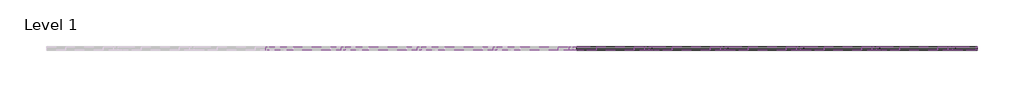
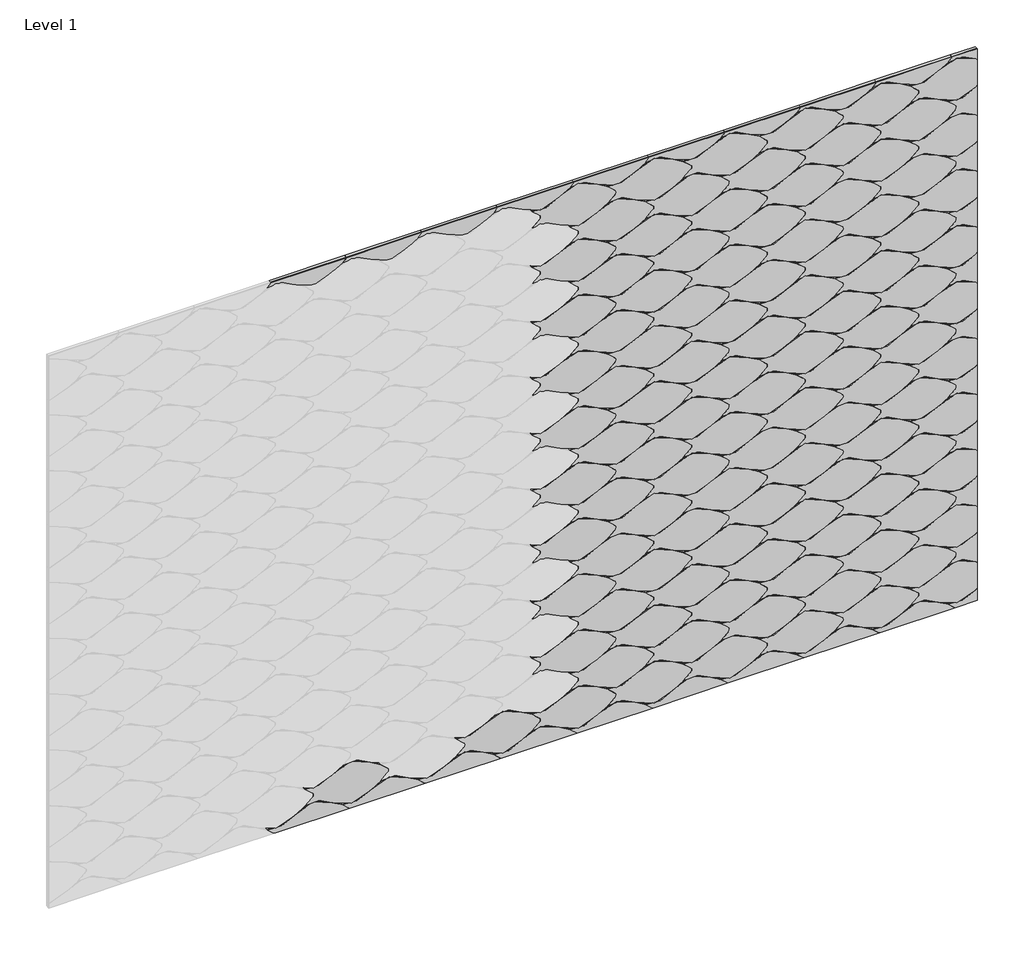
# One storey, part 2 of 2: 136 proxies.
"""IFC4 building model written with IfcOpenShell, lengths in millimetres."""

from ifc_helpers import new_model, si_unit, origin, place, context, project, spatial, transform, mapped, element, save
from components import specialty_equipment_90dfa3fd, specialty_equipment_1d68d449, specialty_equipment_d7a9fa1d, specialty_equipment_58f33b70, specialty_equipment_bcb07fab, specialty_equipment_c99af68f, specialty_equipment_28d2c19e, specialty_equipment_29c11f93, specialty_equipment_dfb9e28b, specialty_equipment_e3a5d67b, specialty_equipment_c6b61611, specialty_equipment_9b4069bb

model = new_model("IFC4")

# Units and contexts
model_context = context("Model", 3, world=origin())
ifc_project = project(units=[si_unit("LENGTHUNIT", "METRE", prefix="MILLI")], contexts=[model_context])

# Site, building, storey
site = spatial("IfcSite", under=ifc_project)
building = spatial("IfcBuilding", under=site)
storey = spatial("IfcBuildingStorey", under=building, Name="Level 1", Elevation=0.0)

# Proxies
placement = place(None, origin())
specialty_equipment_shape = specialty_equipment_90dfa3fd(model_context)
element("IfcBuildingElementProxy", 1, Name="FilzFelt_Fish_Block : Fish Block", ObjectType="FilzFelt_Fish_Block : Fish Block", at=placement, inside=storey, context=model_context, shape_type="MappedRepresentation", body=[
    mapped(specialty_equipment_shape, transform((22595.1029104, 4010.4660665, 3013.3456503), x_axis=(0.0, 0.0, -1.0), y_axis=(1.0, 0.0, 0.0), z_axis=(0.0, -1.0, 0.0))),
])
element("IfcBuildingElementProxy", 2, Name="FilzFelt_Fish_Block : Fish Block", ObjectType="FilzFelt_Fish_Block : Fish Block", at=placement, inside=storey, context=model_context, shape_type="MappedRepresentation", body=[
    mapped(specialty_equipment_shape, transform((22320.6548572, 4010.4660665, 3013.3456503), x_axis=(0.0, 0.0, -1.0), y_axis=(1.0, 0.0, 0.0), z_axis=(0.0, -1.0, 0.0))),
])
element("IfcBuildingElementProxy", 3, Name="FilzFelt_Fish_Block : Fish Block", ObjectType="FilzFelt_Fish_Block : Fish Block", at=placement, inside=storey, context=model_context, shape_type="MappedRepresentation", body=[
    mapped(specialty_equipment_shape, transform((22457.8788838, 4010.4660665, 2906.2483588), x_axis=(0.0, 0.0, -1.0), y_axis=(1.0, 0.0, 0.0), z_axis=(0.0, -1.0, 0.0))),
])
element("IfcBuildingElementProxy", 4, Name="FilzFelt_Fish_Block : Fish Block", ObjectType="FilzFelt_Fish_Block : Fish Block", at=placement, inside=storey, context=model_context, shape_type="MappedRepresentation", body=[
    mapped(specialty_equipment_shape, transform((22869.5509635, 4010.4660665, 1513.9835704), x_axis=(0.0, 0.0, -1.0), y_axis=(1.0, 0.0, 0.0), z_axis=(0.0, -1.0, 0.0))),
])
element("IfcBuildingElementProxy", 5, Name="FilzFelt_Fish_Block : Fish Block", ObjectType="FilzFelt_Fish_Block : Fish Block", at=placement, inside=storey, context=model_context, shape_type="MappedRepresentation", body=[
    mapped(specialty_equipment_shape, transform((22869.5509635, 4010.4660665, 1728.1781532), x_axis=(0.0, 0.0, -1.0), y_axis=(1.0, 0.0, 0.0), z_axis=(0.0, -1.0, 0.0))),
])
element("IfcBuildingElementProxy", 6, Name="FilzFelt_Fish_Block : Fish Block", ObjectType="FilzFelt_Fish_Block : Fish Block", at=placement, inside=storey, context=model_context, shape_type="MappedRepresentation", body=[
    mapped(specialty_equipment_shape, transform((23006.7749901, 4010.4660665, 1621.0808618), x_axis=(0.0, 0.0, -1.0), y_axis=(1.0, 0.0, 0.0), z_axis=(0.0, -1.0, 0.0))),
])
element("IfcBuildingElementProxy", 7, Name="FilzFelt_Fish_Block : Fish Block", ObjectType="FilzFelt_Fish_Block : Fish Block", at=placement, inside=storey, context=model_context, shape_type="MappedRepresentation", body=[
    mapped(specialty_equipment_shape, transform((22732.3269369, 4010.4660665, 1621.0808618), x_axis=(0.0, 0.0, -1.0), y_axis=(1.0, 0.0, 0.0), z_axis=(0.0, -1.0, 0.0))),
])
element("IfcBuildingElementProxy", 8, Name="FilzFelt_Fish_Block : Fish Block", ObjectType="FilzFelt_Fish_Block : Fish Block", at=placement, inside=storey, context=model_context, shape_type="MappedRepresentation", body=[
    mapped(specialty_equipment_shape, transform((22732.3269369, 4010.4660665, 2049.4700275), x_axis=(0.0, 0.0, -1.0), y_axis=(1.0, 0.0, 0.0), z_axis=(0.0, -1.0, 0.0))),
])
element("IfcBuildingElementProxy", 9, Name="FilzFelt_Fish_Block : Fish Block", ObjectType="FilzFelt_Fish_Block : Fish Block", at=placement, inside=storey, context=model_context, shape_type="MappedRepresentation", body=[
    mapped(specialty_equipment_shape, transform((22183.4308306, 4010.4660665, 2049.4700275), x_axis=(0.0, 0.0, -1.0), y_axis=(1.0, 0.0, 0.0), z_axis=(0.0, -1.0, 0.0))),
])
element("IfcBuildingElementProxy", 10, Name="FilzFelt_Fish_Block : Fish Block", ObjectType="FilzFelt_Fish_Block : Fish Block", at=placement, inside=storey, context=model_context, shape_type="MappedRepresentation", body=[
    mapped(specialty_equipment_shape, transform((23281.2230433, 4010.4660665, 2477.8591932), x_axis=(0.0, 0.0, -1.0), y_axis=(1.0, 0.0, 0.0), z_axis=(0.0, -1.0, 0.0))),
])
element("IfcBuildingElementProxy", 11, Name="FilzFelt_Fish_Block : Fish Block", ObjectType="FilzFelt_Fish_Block : Fish Block", at=placement, inside=storey, context=model_context, shape_type="MappedRepresentation", body=[
    mapped(specialty_equipment_shape, transform((23281.2230433, 4010.4660665, 2049.4700275), x_axis=(0.0, 0.0, -1.0), y_axis=(1.0, 0.0, 0.0), z_axis=(0.0, -1.0, 0.0))),
])
specialty_equipment_2_shape = specialty_equipment_1d68d449(model_context)
element("IfcBuildingElementProxy", 12, Name="FilzFelt_Fish_Block : Fish Block", ObjectType="FilzFelt_Fish_Block : Fish Block", at=placement, inside=storey, context=model_context, shape_type="MappedRepresentation", body=[
    mapped(specialty_equipment_2_shape, transform((22595.1029104, 4010.4660665, 2799.1510674), x_axis=(0.0, 0.0, 1.0), y_axis=(-1.0, 0.0, 0.0), z_axis=(0.0, -1.0, 0.0))),
])
element("IfcBuildingElementProxy", 13, Name="FilzFelt_Fish_Block : Fish Block", ObjectType="FilzFelt_Fish_Block : Fish Block", at=placement, inside=storey, context=model_context, shape_type="MappedRepresentation", body=[
    mapped(specialty_equipment_2_shape, transform((22320.6548572, 4010.4660665, 2799.1510674), x_axis=(0.0, 0.0, 1.0), y_axis=(-1.0, 0.0, 0.0), z_axis=(0.0, -1.0, 0.0))),
])
element("IfcBuildingElementProxy", 14, Name="FilzFelt_Fish_Block : Fish Block", ObjectType="FilzFelt_Fish_Block : Fish Block", at=placement, inside=storey, context=model_context, shape_type="MappedRepresentation", body=[
    mapped(specialty_equipment_2_shape, transform((22595.1029104, 4010.4660665, 2584.9564846), x_axis=(0.0, 0.0, 1.0), y_axis=(-1.0, 0.0, 0.0), z_axis=(0.0, -1.0, 0.0))),
])
element("IfcBuildingElementProxy", 15, Name="FilzFelt_Fish_Block : Fish Block", ObjectType="FilzFelt_Fish_Block : Fish Block", at=placement, inside=storey, context=model_context, shape_type="MappedRepresentation", body=[
    mapped(specialty_equipment_2_shape, transform((23006.7749901, 4010.4660665, 2692.053776), x_axis=(0.0, 0.0, 1.0), y_axis=(-1.0, 0.0, 0.0), z_axis=(0.0, -1.0, 0.0))),
])
element("IfcBuildingElementProxy", 16, Name="FilzFelt_Fish_Block : Fish Block", ObjectType="FilzFelt_Fish_Block : Fish Block", at=placement, inside=storey, context=model_context, shape_type="MappedRepresentation", body=[
    mapped(specialty_equipment_2_shape, transform((22457.8788838, 4010.4660665, 2692.053776), x_axis=(0.0, 0.0, 1.0), y_axis=(-1.0, 0.0, 0.0), z_axis=(0.0, -1.0, 0.0))),
])
element("IfcBuildingElementProxy", 17, Name="FilzFelt_Fish_Block : Fish Block", ObjectType="FilzFelt_Fish_Block : Fish Block", at=placement, inside=storey, context=model_context, shape_type="MappedRepresentation", body=[
    mapped(specialty_equipment_2_shape, transform((22320.6548572, 4010.4660665, 2156.5673189), x_axis=(0.0, 0.0, 1.0), y_axis=(-1.0, 0.0, 0.0), z_axis=(0.0, -1.0, 0.0))),
])
element("IfcBuildingElementProxy", 18, Name="FilzFelt_Fish_Block : Fish Block", ObjectType="FilzFelt_Fish_Block : Fish Block", at=placement, inside=storey, context=model_context, shape_type="MappedRepresentation", body=[
    mapped(specialty_equipment_2_shape, transform((22869.5509635, 4010.4660665, 1942.3727361), x_axis=(0.0, 0.0, 1.0), y_axis=(-1.0, 0.0, 0.0), z_axis=(0.0, -1.0, 0.0))),
])
element("IfcBuildingElementProxy", 19, Name="FilzFelt_Fish_Block : Fish Block", ObjectType="FilzFelt_Fish_Block : Fish Block", at=placement, inside=storey, context=model_context, shape_type="MappedRepresentation", body=[
    mapped(specialty_equipment_2_shape, transform((22732.3269369, 4010.4660665, 1835.2754446), x_axis=(0.0, 0.0, 1.0), y_axis=(-1.0, 0.0, 0.0), z_axis=(0.0, -1.0, 0.0))),
])
specialty_equipment_3_shape = specialty_equipment_d7a9fa1d(model_context)
element("IfcBuildingElementProxy", 20, Name="FilzFelt_Fish_Block : Fish Block", ObjectType="FilzFelt_Fish_Block : Fish Block", at=placement, inside=storey, context=model_context, shape_type="MappedRepresentation", body=[
    mapped(specialty_equipment_3_shape, transform((22045.566657, 4010.4660665, 1942.3727361), x_axis=(0.0, 0.0, 1.0), y_axis=(-1.0, 0.0, 0.0), z_axis=(0.0, -1.0, 0.0))),
])
element("IfcBuildingElementProxy", 21, Name="FilzFelt_Fish_Block : Fish Block", ObjectType="FilzFelt_Fish_Block : Fish Block", at=placement, inside=storey, context=model_context, shape_type="MappedRepresentation", body=[
    mapped(specialty_equipment_3_shape, transform((23143.9990167, 4010.4660665, 2584.9564846), x_axis=(0.0, 0.0, 1.0), y_axis=(-1.0, 0.0, 0.0), z_axis=(0.0, -1.0, 0.0))),
])
specialty_equipment_4_shape = specialty_equipment_58f33b70(model_context)
element("IfcBuildingElementProxy", 22, Name="FilzFelt_Fish_Block : Fish Block", ObjectType="FilzFelt_Fish_Block : Fish Block", at=placement, inside=storey, context=model_context, shape_type="MappedRepresentation", body=[
    mapped(specialty_equipment_4_shape, transform((22045.566657, 4010.4660665, 2370.7619017), x_axis=(0.0, 0.0, -1.0), y_axis=(1.0, 0.0, 0.0), z_axis=(0.0, -1.0, 0.0))),
])
specialty_equipment_5_shape = specialty_equipment_bcb07fab(model_context)
element("IfcBuildingElementProxy", 23, Name="FilzFelt_Fish_Block : Fish Block", ObjectType="FilzFelt_Fish_Block : Fish Block", at=placement, inside=storey, context=model_context, shape_type="MappedRepresentation", body=[
    mapped(specialty_equipment_5_shape, transform((21633.8945773, 4010.4660665, 3120.4429417), x_axis=(0.0, 0.0, -1.0), y_axis=(1.0, 0.0, 0.0), z_axis=(0.0, -1.0, 0.0))),
])
element("IfcBuildingElementProxy", 24, Name="FilzFelt_Fish_Block : Fish Block", ObjectType="FilzFelt_Fish_Block : Fish Block", at=placement, inside=storey, context=model_context, shape_type="MappedRepresentation", body=[
    mapped(specialty_equipment_5_shape, transform((21359.4465242, 4010.4660665, 3120.4429417), x_axis=(0.0, 0.0, -1.0), y_axis=(1.0, 0.0, 0.0), z_axis=(0.0, -1.0, 0.0))),
])
element("IfcBuildingElementProxy", 25, Name="FilzFelt_Fish_Block : Fish Block", ObjectType="FilzFelt_Fish_Block : Fish Block", at=placement, inside=storey, context=model_context, shape_type="MappedRepresentation", body=[
    mapped(specialty_equipment_5_shape, transform((22457.8788838, 4010.4660665, 3120.4429417), x_axis=(0.0, 0.0, -1.0), y_axis=(1.0, 0.0, 0.0), z_axis=(0.0, -1.0, 0.0))),
])
specialty_equipment_6_shape = specialty_equipment_c99af68f(model_context)
element("IfcBuildingElementProxy", 26, Name="FilzFelt_Fish_Block : Fish Block", ObjectType="FilzFelt_Fish_Block : Fish Block", at=placement, inside=storey, context=model_context, shape_type="MappedRepresentation", body=[
    mapped(specialty_equipment_6_shape, transform((23418.4470698, 4010.4660665, 2584.9564846), x_axis=(0.0, 0.0, 1.0), y_axis=(-1.0, 0.0, 0.0), z_axis=(0.0, -1.0, 0.0))),
])
element("IfcBuildingElementProxy", 27, Name="FilzFelt_Fish_Block : Fish Block", ObjectType="FilzFelt_Fish_Block : Fish Block", at=placement, inside=storey, context=model_context, shape_type="MappedRepresentation", body=[
    mapped(specialty_equipment_6_shape, transform((23418.4470698, 4010.4660665, 1942.3727361), x_axis=(0.0, 0.0, 1.0), y_axis=(-1.0, 0.0, 0.0), z_axis=(0.0, -1.0, 0.0))),
])
specialty_equipment_7_shape = specialty_equipment_28d2c19e(model_context)
element("IfcBuildingElementProxy", 28, Name="FilzFelt_Fish_Block : Fish Block", ObjectType="FilzFelt_Fish_Block : Fish Block", at=placement, inside=storey, context=model_context, shape_type="MappedRepresentation", body=[
    mapped(specialty_equipment_7_shape, transform((23555.6710964, 4010.4660665, 2049.4700275), x_axis=(0.0, 0.0, -1.0), y_axis=(1.0, 0.0, 0.0), z_axis=(0.0, -1.0, 0.0))),
])
specialty_equipment_8_shape = specialty_equipment_29c11f93(model_context)
element("IfcBuildingElementProxy", 29, Name="FilzFelt_Fish_Block : Fish Block", ObjectType="FilzFelt_Fish_Block : Fish Block", at=placement, inside=storey, context=model_context, shape_type="MappedRepresentation", body=[
    mapped(specialty_equipment_8_shape, transform((23555.6710964, 4010.4660665, 978.4971133), x_axis=(0.0, 0.0, 1.0), y_axis=(-1.0, 0.0, 0.0), z_axis=(0.0, -1.0, 0.0))),
])
specialty_equipment_9_shape = specialty_equipment_dfb9e28b(model_context)
element("IfcBuildingElementProxy", 30, Name="FilzFelt_Fish_Block : Fish Block", ObjectType="FilzFelt_Fish_Block : Fish Block", at=placement, inside=storey, context=model_context, shape_type="MappedRepresentation", body=[
    mapped(specialty_equipment_9_shape, transform((23555.6710964, 4010.4660665, 1406.886279), x_axis=(0.0, 0.0, 1.0), y_axis=(-1.0, 0.0, 0.0), z_axis=(0.0, -1.0, 0.0))),
])
element("IfcBuildingElementProxy", 31, Name="FilzFelt_Fish_Block : Fish Block", ObjectType="FilzFelt_Fish_Block : Fish Block", at=placement, inside=storey, context=model_context, shape_type="MappedRepresentation", body=[
    mapped(specialty_equipment_shape, transform((22869.5509635, 4010.4660665, 3013.3456503), x_axis=(0.0, 0.0, -1.0), y_axis=(1.0, 0.0, 0.0), z_axis=(0.0, -1.0, 0.0))),
])
element("IfcBuildingElementProxy", 32, Name="FilzFelt_Fish_Block : Fish Block", ObjectType="FilzFelt_Fish_Block : Fish Block", at=placement, inside=storey, context=model_context, shape_type="MappedRepresentation", body=[
    mapped(specialty_equipment_shape, transform((23006.7749901, 4010.4660665, 2906.2483588), x_axis=(0.0, 0.0, -1.0), y_axis=(1.0, 0.0, 0.0), z_axis=(0.0, -1.0, 0.0))),
])
element("IfcBuildingElementProxy", 33, Name="FilzFelt_Fish_Block : Fish Block", ObjectType="FilzFelt_Fish_Block : Fish Block", at=placement, inside=storey, context=model_context, shape_type="MappedRepresentation", body=[
    mapped(specialty_equipment_shape, transform((22732.3269369, 4010.4660665, 2906.2483588), x_axis=(0.0, 0.0, -1.0), y_axis=(1.0, 0.0, 0.0), z_axis=(0.0, -1.0, 0.0))),
])
element("IfcBuildingElementProxy", 34, Name="FilzFelt_Fish_Block : Fish Block", ObjectType="FilzFelt_Fish_Block : Fish Block", at=placement, inside=storey, context=model_context, shape_type="MappedRepresentation", body=[
    mapped(specialty_equipment_shape, transform((22869.5509635, 4010.4660665, 2370.7619017), x_axis=(0.0, 0.0, -1.0), y_axis=(1.0, 0.0, 0.0), z_axis=(0.0, -1.0, 0.0))),
])
element("IfcBuildingElementProxy", 35, Name="FilzFelt_Fish_Block : Fish Block", ObjectType="FilzFelt_Fish_Block : Fish Block", at=placement, inside=storey, context=model_context, shape_type="MappedRepresentation", body=[
    mapped(specialty_equipment_shape, transform((23006.7749901, 4010.4660665, 2477.8591932), x_axis=(0.0, 0.0, -1.0), y_axis=(1.0, 0.0, 0.0), z_axis=(0.0, -1.0, 0.0))),
])
element("IfcBuildingElementProxy", 36, Name="FilzFelt_Fish_Block : Fish Block", ObjectType="FilzFelt_Fish_Block : Fish Block", at=placement, inside=storey, context=model_context, shape_type="MappedRepresentation", body=[
    mapped(specialty_equipment_shape, transform((22595.1029104, 4010.4660665, 1513.9835704), x_axis=(0.0, 0.0, -1.0), y_axis=(1.0, 0.0, 0.0), z_axis=(0.0, -1.0, 0.0))),
])
element("IfcBuildingElementProxy", 37, Name="FilzFelt_Fish_Block : Fish Block", ObjectType="FilzFelt_Fish_Block : Fish Block", at=placement, inside=storey, context=model_context, shape_type="MappedRepresentation", body=[
    mapped(specialty_equipment_shape, transform((22320.6548572, 4010.4660665, 1513.9835704), x_axis=(0.0, 0.0, -1.0), y_axis=(1.0, 0.0, 0.0), z_axis=(0.0, -1.0, 0.0))),
])
element("IfcBuildingElementProxy", 38, Name="FilzFelt_Fish_Block : Fish Block", ObjectType="FilzFelt_Fish_Block : Fish Block", at=placement, inside=storey, context=model_context, shape_type="MappedRepresentation", body=[
    mapped(specialty_equipment_shape, transform((22595.1029104, 4010.4660665, 1728.1781532), x_axis=(0.0, 0.0, -1.0), y_axis=(1.0, 0.0, 0.0), z_axis=(0.0, -1.0, 0.0))),
])
element("IfcBuildingElementProxy", 39, Name="FilzFelt_Fish_Block : Fish Block", ObjectType="FilzFelt_Fish_Block : Fish Block", at=placement, inside=storey, context=model_context, shape_type="MappedRepresentation", body=[
    mapped(specialty_equipment_shape, transform((22320.6548572, 4010.4660665, 1728.1781532), x_axis=(0.0, 0.0, -1.0), y_axis=(1.0, 0.0, 0.0), z_axis=(0.0, -1.0, 0.0))),
])
element("IfcBuildingElementProxy", 40, Name="FilzFelt_Fish_Block : Fish Block", ObjectType="FilzFelt_Fish_Block : Fish Block", at=placement, inside=storey, context=model_context, shape_type="MappedRepresentation", body=[
    mapped(specialty_equipment_shape, transform((22457.8788838, 4010.4660665, 1621.0808618), x_axis=(0.0, 0.0, -1.0), y_axis=(1.0, 0.0, 0.0), z_axis=(0.0, -1.0, 0.0))),
])
element("IfcBuildingElementProxy", 41, Name="FilzFelt_Fish_Block : Fish Block", ObjectType="FilzFelt_Fish_Block : Fish Block", at=placement, inside=storey, context=model_context, shape_type="MappedRepresentation", body=[
    mapped(specialty_equipment_shape, transform((23006.7749901, 4010.4660665, 1192.6916961), x_axis=(0.0, 0.0, -1.0), y_axis=(1.0, 0.0, 0.0), z_axis=(0.0, -1.0, 0.0))),
])
element("IfcBuildingElementProxy", 42, Name="FilzFelt_Fish_Block : Fish Block", ObjectType="FilzFelt_Fish_Block : Fish Block", at=placement, inside=storey, context=model_context, shape_type="MappedRepresentation", body=[
    mapped(specialty_equipment_shape, transform((22183.4308306, 4010.4660665, 1192.6916961), x_axis=(0.0, 0.0, -1.0), y_axis=(1.0, 0.0, 0.0), z_axis=(0.0, -1.0, 0.0))),
])
element("IfcBuildingElementProxy", 43, Name="FilzFelt_Fish_Block : Fish Block", ObjectType="FilzFelt_Fish_Block : Fish Block", at=placement, inside=storey, context=model_context, shape_type="MappedRepresentation", body=[
    mapped(specialty_equipment_shape, transform((23281.2230433, 4010.4660665, 1192.6916961), x_axis=(0.0, 0.0, -1.0), y_axis=(1.0, 0.0, 0.0), z_axis=(0.0, -1.0, 0.0))),
])
element("IfcBuildingElementProxy", 44, Name="FilzFelt_Fish_Block : Fish Block", ObjectType="FilzFelt_Fish_Block : Fish Block", at=placement, inside=storey, context=model_context, shape_type="MappedRepresentation", body=[
    mapped(specialty_equipment_5_shape, transform((23006.7749901, 4010.4660665, 3120.4429417), x_axis=(0.0, 0.0, -1.0), y_axis=(1.0, 0.0, 0.0), z_axis=(0.0, -1.0, 0.0))),
])
element("IfcBuildingElementProxy", 45, Name="FilzFelt_Fish_Block : Fish Block", ObjectType="FilzFelt_Fish_Block : Fish Block", at=placement, inside=storey, context=model_context, shape_type="MappedRepresentation", body=[
    mapped(specialty_equipment_5_shape, transform((22732.3269369, 4010.4660665, 3120.4429417), x_axis=(0.0, 0.0, -1.0), y_axis=(1.0, 0.0, 0.0), z_axis=(0.0, -1.0, 0.0))),
])
element("IfcBuildingElementProxy", 46, Name="FilzFelt_Fish_Block : Fish Block", ObjectType="FilzFelt_Fish_Block : Fish Block", at=placement, inside=storey, context=model_context, shape_type="MappedRepresentation", body=[
    mapped(specialty_equipment_5_shape, transform((23281.2230433, 4010.4660665, 3120.4429417), x_axis=(0.0, 0.0, -1.0), y_axis=(1.0, 0.0, 0.0), z_axis=(0.0, -1.0, 0.0))),
])
element("IfcBuildingElementProxy", 47, Name="FilzFelt_Fish_Block : Fish Block", ObjectType="FilzFelt_Fish_Block : Fish Block", at=placement, inside=storey, context=model_context, shape_type="MappedRepresentation", body=[
    mapped(specialty_equipment_shape, transform((22183.4308306, 4010.4660665, 2906.2483588), x_axis=(0.0, 0.0, -1.0), y_axis=(1.0, 0.0, 0.0), z_axis=(0.0, -1.0, 0.0))),
])
element("IfcBuildingElementProxy", 48, Name="FilzFelt_Fish_Block : Fish Block", ObjectType="FilzFelt_Fish_Block : Fish Block", at=placement, inside=storey, context=model_context, shape_type="MappedRepresentation", body=[
    mapped(specialty_equipment_shape, transform((22732.3269369, 4010.4660665, 2477.8591932), x_axis=(0.0, 0.0, -1.0), y_axis=(1.0, 0.0, 0.0), z_axis=(0.0, -1.0, 0.0))),
])
element("IfcBuildingElementProxy", 49, Name="FilzFelt_Fish_Block : Fish Block", ObjectType="FilzFelt_Fish_Block : Fish Block", at=placement, inside=storey, context=model_context, shape_type="MappedRepresentation", body=[
    mapped(specialty_equipment_shape, transform((22183.4308306, 4010.4660665, 2477.8591932), x_axis=(0.0, 0.0, -1.0), y_axis=(1.0, 0.0, 0.0), z_axis=(0.0, -1.0, 0.0))),
])
element("IfcBuildingElementProxy", 50, Name="FilzFelt_Fish_Block : Fish Block", ObjectType="FilzFelt_Fish_Block : Fish Block", at=placement, inside=storey, context=model_context, shape_type="MappedRepresentation", body=[
    mapped(specialty_equipment_shape, transform((22457.8788838, 4010.4660665, 2049.4700275), x_axis=(0.0, 0.0, -1.0), y_axis=(1.0, 0.0, 0.0), z_axis=(0.0, -1.0, 0.0))),
])
element("IfcBuildingElementProxy", 51, Name="FilzFelt_Fish_Block : Fish Block", ObjectType="FilzFelt_Fish_Block : Fish Block", at=placement, inside=storey, context=model_context, shape_type="MappedRepresentation", body=[
    mapped(specialty_equipment_shape, transform((23281.2230433, 4010.4660665, 1621.0808618), x_axis=(0.0, 0.0, -1.0), y_axis=(1.0, 0.0, 0.0), z_axis=(0.0, -1.0, 0.0))),
])
element("IfcBuildingElementProxy", 52, Name="FilzFelt_Fish_Block : Fish Block", ObjectType="FilzFelt_Fish_Block : Fish Block", at=placement, inside=storey, context=model_context, shape_type="MappedRepresentation", body=[
    mapped(specialty_equipment_4_shape, transform((22045.566657, 4010.4660665, 3013.3456503), x_axis=(0.0, 0.0, -1.0), y_axis=(1.0, 0.0, 0.0), z_axis=(0.0, -1.0, 0.0))),
])
element("IfcBuildingElementProxy", 53, Name="FilzFelt_Fish_Block : Fish Block", ObjectType="FilzFelt_Fish_Block : Fish Block", at=placement, inside=storey, context=model_context, shape_type="MappedRepresentation", body=[
    mapped(specialty_equipment_4_shape, transform((23143.9990167, 4010.4660665, 1513.9835704), x_axis=(0.0, 0.0, -1.0), y_axis=(1.0, 0.0, 0.0), z_axis=(0.0, -1.0, 0.0))),
])
element("IfcBuildingElementProxy", 54, Name="FilzFelt_Fish_Block : Fish Block", ObjectType="FilzFelt_Fish_Block : Fish Block", at=placement, inside=storey, context=model_context, shape_type="MappedRepresentation", body=[
    mapped(specialty_equipment_2_shape, transform((21222.2224976, 4010.4660665, 1085.5944047), x_axis=(0.0, 0.0, 1.0), y_axis=(-1.0, 0.0, 0.0), z_axis=(0.0, -1.0, 0.0))),
])
element("IfcBuildingElementProxy", 55, Name="FilzFelt_Fish_Block : Fish Block", ObjectType="FilzFelt_Fish_Block : Fish Block", at=placement, inside=storey, context=model_context, shape_type="MappedRepresentation", body=[
    mapped(specialty_equipment_2_shape, transform((21771.1186039, 4010.4660665, 1085.5944047), x_axis=(0.0, 0.0, 1.0), y_axis=(-1.0, 0.0, 0.0), z_axis=(0.0, -1.0, 0.0))),
])
element("IfcBuildingElementProxy", 56, Name="FilzFelt_Fish_Block : Fish Block", ObjectType="FilzFelt_Fish_Block : Fish Block", at=placement, inside=storey, context=model_context, shape_type="MappedRepresentation", body=[
    mapped(specialty_equipment_2_shape, transform((22869.5509635, 4010.4660665, 2799.1510674), x_axis=(0.0, 0.0, 1.0), y_axis=(-1.0, 0.0, 0.0), z_axis=(0.0, -1.0, 0.0))),
])
element("IfcBuildingElementProxy", 57, Name="FilzFelt_Fish_Block : Fish Block", ObjectType="FilzFelt_Fish_Block : Fish Block", at=placement, inside=storey, context=model_context, shape_type="MappedRepresentation", body=[
    mapped(specialty_equipment_2_shape, transform((22320.6548572, 4010.4660665, 2584.9564846), x_axis=(0.0, 0.0, 1.0), y_axis=(-1.0, 0.0, 0.0), z_axis=(0.0, -1.0, 0.0))),
])
element("IfcBuildingElementProxy", 58, Name="FilzFelt_Fish_Block : Fish Block", ObjectType="FilzFelt_Fish_Block : Fish Block", at=placement, inside=storey, context=model_context, shape_type="MappedRepresentation", body=[
    mapped(specialty_equipment_2_shape, transform((22869.5509635, 4010.4660665, 2584.9564846), x_axis=(0.0, 0.0, 1.0), y_axis=(-1.0, 0.0, 0.0), z_axis=(0.0, -1.0, 0.0))),
])
element("IfcBuildingElementProxy", 59, Name="FilzFelt_Fish_Block : Fish Block", ObjectType="FilzFelt_Fish_Block : Fish Block", at=placement, inside=storey, context=model_context, shape_type="MappedRepresentation", body=[
    mapped(specialty_equipment_2_shape, transform((22732.3269369, 4010.4660665, 2692.053776), x_axis=(0.0, 0.0, 1.0), y_axis=(-1.0, 0.0, 0.0), z_axis=(0.0, -1.0, 0.0))),
])
element("IfcBuildingElementProxy", 60, Name="FilzFelt_Fish_Block : Fish Block", ObjectType="FilzFelt_Fish_Block : Fish Block", at=placement, inside=storey, context=model_context, shape_type="MappedRepresentation", body=[
    mapped(specialty_equipment_2_shape, transform((22183.4308306, 4010.4660665, 2692.053776), x_axis=(0.0, 0.0, 1.0), y_axis=(-1.0, 0.0, 0.0), z_axis=(0.0, -1.0, 0.0))),
])
element("IfcBuildingElementProxy", 61, Name="FilzFelt_Fish_Block : Fish Block", ObjectType="FilzFelt_Fish_Block : Fish Block", at=placement, inside=storey, context=model_context, shape_type="MappedRepresentation", body=[
    mapped(specialty_equipment_2_shape, transform((22595.1029104, 4010.4660665, 2156.5673189), x_axis=(0.0, 0.0, 1.0), y_axis=(-1.0, 0.0, 0.0), z_axis=(0.0, -1.0, 0.0))),
])
element("IfcBuildingElementProxy", 62, Name="FilzFelt_Fish_Block : Fish Block", ObjectType="FilzFelt_Fish_Block : Fish Block", at=placement, inside=storey, context=model_context, shape_type="MappedRepresentation", body=[
    mapped(specialty_equipment_2_shape, transform((22732.3269369, 4010.4660665, 2263.6646103), x_axis=(0.0, 0.0, 1.0), y_axis=(-1.0, 0.0, 0.0), z_axis=(0.0, -1.0, 0.0))),
])
element("IfcBuildingElementProxy", 63, Name="FilzFelt_Fish_Block : Fish Block", ObjectType="FilzFelt_Fish_Block : Fish Block", at=placement, inside=storey, context=model_context, shape_type="MappedRepresentation", body=[
    mapped(specialty_equipment_2_shape, transform((22595.1029104, 4010.4660665, 1299.7889875), x_axis=(0.0, 0.0, 1.0), y_axis=(-1.0, 0.0, 0.0), z_axis=(0.0, -1.0, 0.0))),
])
element("IfcBuildingElementProxy", 64, Name="FilzFelt_Fish_Block : Fish Block", ObjectType="FilzFelt_Fish_Block : Fish Block", at=placement, inside=storey, context=model_context, shape_type="MappedRepresentation", body=[
    mapped(specialty_equipment_2_shape, transform((22320.6548572, 4010.4660665, 1299.7889875), x_axis=(0.0, 0.0, 1.0), y_axis=(-1.0, 0.0, 0.0), z_axis=(0.0, -1.0, 0.0))),
])
element("IfcBuildingElementProxy", 65, Name="FilzFelt_Fish_Block : Fish Block", ObjectType="FilzFelt_Fish_Block : Fish Block", at=placement, inside=storey, context=model_context, shape_type="MappedRepresentation", body=[
    mapped(specialty_equipment_2_shape, transform((23006.7749901, 4010.4660665, 1406.886279), x_axis=(0.0, 0.0, 1.0), y_axis=(-1.0, 0.0, 0.0), z_axis=(0.0, -1.0, 0.0))),
])
element("IfcBuildingElementProxy", 66, Name="FilzFelt_Fish_Block : Fish Block", ObjectType="FilzFelt_Fish_Block : Fish Block", at=placement, inside=storey, context=model_context, shape_type="MappedRepresentation", body=[
    mapped(specialty_equipment_2_shape, transform((22457.8788838, 4010.4660665, 1406.886279), x_axis=(0.0, 0.0, 1.0), y_axis=(-1.0, 0.0, 0.0), z_axis=(0.0, -1.0, 0.0))),
])
element("IfcBuildingElementProxy", 67, Name="FilzFelt_Fish_Block : Fish Block", ObjectType="FilzFelt_Fish_Block : Fish Block", at=placement, inside=storey, context=model_context, shape_type="MappedRepresentation", body=[
    mapped(specialty_equipment_2_shape, transform((22183.4308306, 4010.4660665, 1406.886279), x_axis=(0.0, 0.0, 1.0), y_axis=(-1.0, 0.0, 0.0), z_axis=(0.0, -1.0, 0.0))),
])
element("IfcBuildingElementProxy", 68, Name="FilzFelt_Fish_Block : Fish Block", ObjectType="FilzFelt_Fish_Block : Fish Block", at=placement, inside=storey, context=model_context, shape_type="MappedRepresentation", body=[
    mapped(specialty_equipment_2_shape, transform((22320.6548572, 4010.4660665, 1942.3727361), x_axis=(0.0, 0.0, 1.0), y_axis=(-1.0, 0.0, 0.0), z_axis=(0.0, -1.0, 0.0))),
])
element("IfcBuildingElementProxy", 69, Name="FilzFelt_Fish_Block : Fish Block", ObjectType="FilzFelt_Fish_Block : Fish Block", at=placement, inside=storey, context=model_context, shape_type="MappedRepresentation", body=[
    mapped(specialty_equipment_2_shape, transform((23281.2230433, 4010.4660665, 2263.6646103), x_axis=(0.0, 0.0, 1.0), y_axis=(-1.0, 0.0, 0.0), z_axis=(0.0, -1.0, 0.0))),
])
element("IfcBuildingElementProxy", 70, Name="FilzFelt_Fish_Block : Fish Block", ObjectType="FilzFelt_Fish_Block : Fish Block", at=placement, inside=storey, context=model_context, shape_type="MappedRepresentation", body=[
    mapped(specialty_equipment_2_shape, transform((23281.2230433, 4010.4660665, 1406.886279), x_axis=(0.0, 0.0, 1.0), y_axis=(-1.0, 0.0, 0.0), z_axis=(0.0, -1.0, 0.0))),
])
element("IfcBuildingElementProxy", 71, Name="FilzFelt_Fish_Block : Fish Block", ObjectType="FilzFelt_Fish_Block : Fish Block", at=placement, inside=storey, context=model_context, shape_type="MappedRepresentation", body=[
    mapped(specialty_equipment_3_shape, transform((22045.566657, 4010.4660665, 2584.9564846), x_axis=(0.0, 0.0, 1.0), y_axis=(-1.0, 0.0, 0.0), z_axis=(0.0, -1.0, 0.0))),
])
specialty_equipment_10_shape = specialty_equipment_e3a5d67b(model_context)
element("IfcBuildingElementProxy", 72, Name="FilzFelt_Fish_Block : Fish Block", ObjectType="FilzFelt_Fish_Block : Fish Block", at=placement, inside=storey, context=model_context, shape_type="MappedRepresentation", body=[
    mapped(specialty_equipment_10_shape, transform((21633.8945773, 4010.4660665, 978.4971133), x_axis=(0.0, 0.0, 1.0), y_axis=(-1.0, 0.0, 0.0), z_axis=(0.0, -1.0, 0.0))),
])
element("IfcBuildingElementProxy", 73, Name="FilzFelt_Fish_Block : Fish Block", ObjectType="FilzFelt_Fish_Block : Fish Block", at=placement, inside=storey, context=model_context, shape_type="MappedRepresentation", body=[
    mapped(specialty_equipment_10_shape, transform((21359.4465242, 4010.4660665, 978.4971133), x_axis=(0.0, 0.0, 1.0), y_axis=(-1.0, 0.0, 0.0), z_axis=(0.0, -1.0, 0.0))),
])
element("IfcBuildingElementProxy", 74, Name="FilzFelt_Fish_Block : Fish Block", ObjectType="FilzFelt_Fish_Block : Fish Block", at=placement, inside=storey, context=model_context, shape_type="MappedRepresentation", body=[
    mapped(specialty_equipment_10_shape, transform((21084.998471, 4010.4660665, 978.4971133), x_axis=(0.0, 0.0, 1.0), y_axis=(-1.0, 0.0, 0.0), z_axis=(0.0, -1.0, 0.0))),
])
element("IfcBuildingElementProxy", 75, Name="FilzFelt_Fish_Block : Fish Block", ObjectType="FilzFelt_Fish_Block : Fish Block", at=placement, inside=storey, context=model_context, shape_type="MappedRepresentation", body=[
    mapped(specialty_equipment_5_shape, transform((21908.3426305, 4010.4660665, 3120.4429417), x_axis=(0.0, 0.0, -1.0), y_axis=(1.0, 0.0, 0.0), z_axis=(0.0, -1.0, 0.0))),
])
element("IfcBuildingElementProxy", 76, Name="FilzFelt_Fish_Block : Fish Block", ObjectType="FilzFelt_Fish_Block : Fish Block", at=placement, inside=storey, context=model_context, shape_type="MappedRepresentation", body=[
    mapped(specialty_equipment_5_shape, transform((21084.998471, 4010.4660665, 3120.4429417), x_axis=(0.0, 0.0, -1.0), y_axis=(1.0, 0.0, 0.0), z_axis=(0.0, -1.0, 0.0))),
])
element("IfcBuildingElementProxy", 77, Name="FilzFelt_Fish_Block : Fish Block", ObjectType="FilzFelt_Fish_Block : Fish Block", at=placement, inside=storey, context=model_context, shape_type="MappedRepresentation", body=[
    mapped(specialty_equipment_5_shape, transform((22183.4308306, 4010.4660665, 3120.4429417), x_axis=(0.0, 0.0, -1.0), y_axis=(1.0, 0.0, 0.0), z_axis=(0.0, -1.0, 0.0))),
])
element("IfcBuildingElementProxy", 78, Name="FilzFelt_Fish_Block : Fish Block", ObjectType="FilzFelt_Fish_Block : Fish Block", at=placement, inside=storey, context=model_context, shape_type="MappedRepresentation", body=[
    mapped(specialty_equipment_7_shape, transform((23555.6710964, 4010.4660665, 2906.2483588), x_axis=(0.0, 0.0, -1.0), y_axis=(1.0, 0.0, 0.0), z_axis=(0.0, -1.0, 0.0))),
])
element("IfcBuildingElementProxy", 79, Name="FilzFelt_Fish_Block : Fish Block", ObjectType="FilzFelt_Fish_Block : Fish Block", at=placement, inside=storey, context=model_context, shape_type="MappedRepresentation", body=[
    mapped(specialty_equipment_7_shape, transform((23555.6710964, 4010.4660665, 2477.8591932), x_axis=(0.0, 0.0, -1.0), y_axis=(1.0, 0.0, 0.0), z_axis=(0.0, -1.0, 0.0))),
])
element("IfcBuildingElementProxy", 80, Name="FilzFelt_Fish_Block : Fish Block", ObjectType="FilzFelt_Fish_Block : Fish Block", at=placement, inside=storey, context=model_context, shape_type="MappedRepresentation", body=[
    mapped(specialty_equipment_6_shape, transform((23418.4470698, 4010.4660665, 2156.5673189), x_axis=(0.0, 0.0, 1.0), y_axis=(-1.0, 0.0, 0.0), z_axis=(0.0, -1.0, 0.0))),
])
element("IfcBuildingElementProxy", 81, Name="FilzFelt_Fish_Block : Fish Block", ObjectType="FilzFelt_Fish_Block : Fish Block", at=placement, inside=storey, context=model_context, shape_type="MappedRepresentation", body=[
    mapped(specialty_equipment_9_shape, transform((23555.6710964, 4010.4660665, 2263.6646103), x_axis=(0.0, 0.0, 1.0), y_axis=(-1.0, 0.0, 0.0), z_axis=(0.0, -1.0, 0.0))),
])
specialty_equipment_11_shape = specialty_equipment_c6b61611(model_context)
element("IfcBuildingElementProxy", 82, Name="FilzFelt_Fish_Block : Fish Block", ObjectType="FilzFelt_Fish_Block : Fish Block", at=placement, inside=storey, context=model_context, shape_type="MappedRepresentation", body=[
    mapped(specialty_equipment_11_shape, transform((23418.4470698, 4010.4660665, 2370.7619017), x_axis=(0.0, 0.0, -1.0), y_axis=(1.0, 0.0, 0.0), z_axis=(0.0, -1.0, 0.0))),
])
element("IfcBuildingElementProxy", 83, Name="FilzFelt_Fish_Block : Fish Block", ObjectType="FilzFelt_Fish_Block : Fish Block", at=placement, inside=storey, context=model_context, shape_type="MappedRepresentation", body=[
    mapped(specialty_equipment_11_shape, transform((23418.4470698, 4010.4660665, 1513.9835704), x_axis=(0.0, 0.0, -1.0), y_axis=(1.0, 0.0, 0.0), z_axis=(0.0, -1.0, 0.0))),
])
specialty_equipment_12_shape = specialty_equipment_9b4069bb(model_context)
element("IfcBuildingElementProxy", 84, Name="FilzFelt_Fish_Block : Fish Block", ObjectType="FilzFelt_Fish_Block : Fish Block", at=placement, inside=storey, context=model_context, shape_type="MappedRepresentation", body=[
    mapped(specialty_equipment_12_shape, transform((23555.6710964, 4010.4660665, 3120.4429417), x_axis=(0.0, 0.0, -1.0), y_axis=(1.0, 0.0, 0.0), z_axis=(0.0, -1.0, 0.0))),
])
element("IfcBuildingElementProxy", 85, Name="FilzFelt_Fish_Block : Fish Block", ObjectType="FilzFelt_Fish_Block : Fish Block", at=placement, inside=storey, context=model_context, shape_type="MappedRepresentation", body=[
    mapped(specialty_equipment_2_shape, transform((22732.3269369, 4010.4660665, 1406.886279), x_axis=(0.0, 0.0, 1.0), y_axis=(-1.0, 0.0, 0.0), z_axis=(0.0, -1.0, 0.0))),
])
element("IfcBuildingElementProxy", 86, Name="FilzFelt_Fish_Block : Fish Block", ObjectType="FilzFelt_Fish_Block : Fish Block", at=placement, inside=storey, context=model_context, shape_type="MappedRepresentation", body=[
    mapped(specialty_equipment_2_shape, transform((22595.1029104, 4010.4660665, 1942.3727361), x_axis=(0.0, 0.0, 1.0), y_axis=(-1.0, 0.0, 0.0), z_axis=(0.0, -1.0, 0.0))),
])
element("IfcBuildingElementProxy", 87, Name="FilzFelt_Fish_Block : Fish Block", ObjectType="FilzFelt_Fish_Block : Fish Block", at=placement, inside=storey, context=model_context, shape_type="MappedRepresentation", body=[
    mapped(specialty_equipment_2_shape, transform((22457.8788838, 4010.4660665, 1835.2754446), x_axis=(0.0, 0.0, 1.0), y_axis=(-1.0, 0.0, 0.0), z_axis=(0.0, -1.0, 0.0))),
])
element("IfcBuildingElementProxy", 88, Name="FilzFelt_Fish_Block : Fish Block", ObjectType="FilzFelt_Fish_Block : Fish Block", at=placement, inside=storey, context=model_context, shape_type="MappedRepresentation", body=[
    mapped(specialty_equipment_2_shape, transform((23281.2230433, 4010.4660665, 1835.2754446), x_axis=(0.0, 0.0, 1.0), y_axis=(-1.0, 0.0, 0.0), z_axis=(0.0, -1.0, 0.0))),
])
element("IfcBuildingElementProxy", 89, Name="FilzFelt_Fish_Block : Fish Block", ObjectType="FilzFelt_Fish_Block : Fish Block", at=placement, inside=storey, context=model_context, shape_type="MappedRepresentation", body=[
    mapped(specialty_equipment_10_shape, transform((21908.3426305, 4010.4660665, 978.4971133), x_axis=(0.0, 0.0, 1.0), y_axis=(-1.0, 0.0, 0.0), z_axis=(0.0, -1.0, 0.0))),
])
element("IfcBuildingElementProxy", 90, Name="FilzFelt_Fish_Block : Fish Block", ObjectType="FilzFelt_Fish_Block : Fish Block", at=placement, inside=storey, context=model_context, shape_type="MappedRepresentation", body=[
    mapped(specialty_equipment_10_shape, transform((23006.7749901, 4010.4660665, 978.4971133), x_axis=(0.0, 0.0, 1.0), y_axis=(-1.0, 0.0, 0.0), z_axis=(0.0, -1.0, 0.0))),
])
element("IfcBuildingElementProxy", 91, Name="FilzFelt_Fish_Block : Fish Block", ObjectType="FilzFelt_Fish_Block : Fish Block", at=placement, inside=storey, context=model_context, shape_type="MappedRepresentation", body=[
    mapped(specialty_equipment_10_shape, transform((22183.4308306, 4010.4660665, 978.4971133), x_axis=(0.0, 0.0, 1.0), y_axis=(-1.0, 0.0, 0.0), z_axis=(0.0, -1.0, 0.0))),
])
element("IfcBuildingElementProxy", 92, Name="FilzFelt_Fish_Block : Fish Block", ObjectType="FilzFelt_Fish_Block : Fish Block", at=placement, inside=storey, context=model_context, shape_type="MappedRepresentation", body=[
    mapped(specialty_equipment_10_shape, transform((23281.2230433, 4010.4660665, 978.4971133), x_axis=(0.0, 0.0, 1.0), y_axis=(-1.0, 0.0, 0.0), z_axis=(0.0, -1.0, 0.0))),
])
element("IfcBuildingElementProxy", 93, Name="FilzFelt_Fish_Block : Fish Block", ObjectType="FilzFelt_Fish_Block : Fish Block", at=placement, inside=storey, context=model_context, shape_type="MappedRepresentation", body=[
    mapped(specialty_equipment_3_shape, transform((22045.566657, 4010.4660665, 1299.7889875), x_axis=(0.0, 0.0, 1.0), y_axis=(-1.0, 0.0, 0.0), z_axis=(0.0, -1.0, 0.0))),
])
element("IfcBuildingElementProxy", 94, Name="FilzFelt_Fish_Block : Fish Block", ObjectType="FilzFelt_Fish_Block : Fish Block", at=placement, inside=storey, context=model_context, shape_type="MappedRepresentation", body=[
    mapped(specialty_equipment_3_shape, transform((22045.566657, 4010.4660665, 1085.5944047), x_axis=(0.0, 0.0, 1.0), y_axis=(-1.0, 0.0, 0.0), z_axis=(0.0, -1.0, 0.0))),
])
element("IfcBuildingElementProxy", 95, Name="FilzFelt_Fish_Block : Fish Block", ObjectType="FilzFelt_Fish_Block : Fish Block", at=placement, inside=storey, context=model_context, shape_type="MappedRepresentation", body=[
    mapped(specialty_equipment_3_shape, transform((23143.9990167, 4010.4660665, 1299.7889875), x_axis=(0.0, 0.0, 1.0), y_axis=(-1.0, 0.0, 0.0), z_axis=(0.0, -1.0, 0.0))),
])
element("IfcBuildingElementProxy", 96, Name="FilzFelt_Fish_Block : Fish Block", ObjectType="FilzFelt_Fish_Block : Fish Block", at=placement, inside=storey, context=model_context, shape_type="MappedRepresentation", body=[
    mapped(specialty_equipment_3_shape, transform((23143.9990167, 4010.4660665, 1085.5944047), x_axis=(0.0, 0.0, 1.0), y_axis=(-1.0, 0.0, 0.0), z_axis=(0.0, -1.0, 0.0))),
])
element("IfcBuildingElementProxy", 97, Name="FilzFelt_Fish_Block : Fish Block", ObjectType="FilzFelt_Fish_Block : Fish Block", at=placement, inside=storey, context=model_context, shape_type="MappedRepresentation", body=[
    mapped(specialty_equipment_4_shape, transform((23143.9990167, 4010.4660665, 3013.3456503), x_axis=(0.0, 0.0, -1.0), y_axis=(1.0, 0.0, 0.0), z_axis=(0.0, -1.0, 0.0))),
])
element("IfcBuildingElementProxy", 98, Name="FilzFelt_Fish_Block : Fish Block", ObjectType="FilzFelt_Fish_Block : Fish Block", at=placement, inside=storey, context=model_context, shape_type="MappedRepresentation", body=[
    mapped(specialty_equipment_4_shape, transform((23143.9990167, 4010.4660665, 2370.7619017), x_axis=(0.0, 0.0, -1.0), y_axis=(1.0, 0.0, 0.0), z_axis=(0.0, -1.0, 0.0))),
])
element("IfcBuildingElementProxy", 99, Name="FilzFelt_Fish_Block : Fish Block", ObjectType="FilzFelt_Fish_Block : Fish Block", at=placement, inside=storey, context=model_context, shape_type="MappedRepresentation", body=[
    mapped(specialty_equipment_4_shape, transform((23143.9990167, 4010.4660665, 1728.1781532), x_axis=(0.0, 0.0, -1.0), y_axis=(1.0, 0.0, 0.0), z_axis=(0.0, -1.0, 0.0))),
])
element("IfcBuildingElementProxy", 100, Name="FilzFelt_Fish_Block : Fish Block", ObjectType="FilzFelt_Fish_Block : Fish Block", at=placement, inside=storey, context=model_context, shape_type="MappedRepresentation", body=[
    mapped(specialty_equipment_11_shape, transform((23418.4470698, 4010.4660665, 3013.3456503), x_axis=(0.0, 0.0, -1.0), y_axis=(1.0, 0.0, 0.0), z_axis=(0.0, -1.0, 0.0))),
])
element("IfcBuildingElementProxy", 101, Name="FilzFelt_Fish_Block : Fish Block", ObjectType="FilzFelt_Fish_Block : Fish Block", at=placement, inside=storey, context=model_context, shape_type="MappedRepresentation", body=[
    mapped(specialty_equipment_11_shape, transform((23418.4470698, 4010.4660665, 1728.1781532), x_axis=(0.0, 0.0, -1.0), y_axis=(1.0, 0.0, 0.0), z_axis=(0.0, -1.0, 0.0))),
])
element("IfcBuildingElementProxy", 102, Name="FilzFelt_Fish_Block : Fish Block", ObjectType="FilzFelt_Fish_Block : Fish Block", at=placement, inside=storey, context=model_context, shape_type="MappedRepresentation", body=[
    mapped(specialty_equipment_7_shape, transform((23555.6710964, 4010.4660665, 1621.0808618), x_axis=(0.0, 0.0, -1.0), y_axis=(1.0, 0.0, 0.0), z_axis=(0.0, -1.0, 0.0))),
])
element("IfcBuildingElementProxy", 103, Name="FilzFelt_Fish_Block : Fish Block", ObjectType="FilzFelt_Fish_Block : Fish Block", at=placement, inside=storey, context=model_context, shape_type="MappedRepresentation", body=[
    mapped(specialty_equipment_9_shape, transform((23555.6710964, 4010.4660665, 1835.2754446), x_axis=(0.0, 0.0, 1.0), y_axis=(-1.0, 0.0, 0.0), z_axis=(0.0, -1.0, 0.0))),
])
element("IfcBuildingElementProxy", 104, Name="FilzFelt_Fish_Block : Fish Block", ObjectType="FilzFelt_Fish_Block : Fish Block", at=placement, inside=storey, context=model_context, shape_type="MappedRepresentation", body=[
    mapped(specialty_equipment_shape, transform((22595.1029104, 4010.4660665, 2370.7619017), x_axis=(0.0, 0.0, -1.0), y_axis=(1.0, 0.0, 0.0), z_axis=(0.0, -1.0, 0.0))),
])
element("IfcBuildingElementProxy", 105, Name="FilzFelt_Fish_Block : Fish Block", ObjectType="FilzFelt_Fish_Block : Fish Block", at=placement, inside=storey, context=model_context, shape_type="MappedRepresentation", body=[
    mapped(specialty_equipment_shape, transform((22320.6548572, 4010.4660665, 2370.7619017), x_axis=(0.0, 0.0, -1.0), y_axis=(1.0, 0.0, 0.0), z_axis=(0.0, -1.0, 0.0))),
])
element("IfcBuildingElementProxy", 106, Name="FilzFelt_Fish_Block : Fish Block", ObjectType="FilzFelt_Fish_Block : Fish Block", at=placement, inside=storey, context=model_context, shape_type="MappedRepresentation", body=[
    mapped(specialty_equipment_shape, transform((22457.8788838, 4010.4660665, 2477.8591932), x_axis=(0.0, 0.0, -1.0), y_axis=(1.0, 0.0, 0.0), z_axis=(0.0, -1.0, 0.0))),
])
element("IfcBuildingElementProxy", 107, Name="FilzFelt_Fish_Block : Fish Block", ObjectType="FilzFelt_Fish_Block : Fish Block", at=placement, inside=storey, context=model_context, shape_type="MappedRepresentation", body=[
    mapped(specialty_equipment_shape, transform((22183.4308306, 4010.4660665, 1621.0808618), x_axis=(0.0, 0.0, -1.0), y_axis=(1.0, 0.0, 0.0), z_axis=(0.0, -1.0, 0.0))),
])
element("IfcBuildingElementProxy", 108, Name="FilzFelt_Fish_Block : Fish Block", ObjectType="FilzFelt_Fish_Block : Fish Block", at=placement, inside=storey, context=model_context, shape_type="MappedRepresentation", body=[
    mapped(specialty_equipment_shape, transform((23006.7749901, 4010.4660665, 2049.4700275), x_axis=(0.0, 0.0, -1.0), y_axis=(1.0, 0.0, 0.0), z_axis=(0.0, -1.0, 0.0))),
])
element("IfcBuildingElementProxy", 109, Name="FilzFelt_Fish_Block : Fish Block", ObjectType="FilzFelt_Fish_Block : Fish Block", at=placement, inside=storey, context=model_context, shape_type="MappedRepresentation", body=[
    mapped(specialty_equipment_shape, transform((22732.3269369, 4010.4660665, 1192.6916961), x_axis=(0.0, 0.0, -1.0), y_axis=(1.0, 0.0, 0.0), z_axis=(0.0, -1.0, 0.0))),
])
element("IfcBuildingElementProxy", 110, Name="FilzFelt_Fish_Block : Fish Block", ObjectType="FilzFelt_Fish_Block : Fish Block", at=placement, inside=storey, context=model_context, shape_type="MappedRepresentation", body=[
    mapped(specialty_equipment_shape, transform((22457.8788838, 4010.4660665, 1192.6916961), x_axis=(0.0, 0.0, -1.0), y_axis=(1.0, 0.0, 0.0), z_axis=(0.0, -1.0, 0.0))),
])
element("IfcBuildingElementProxy", 111, Name="FilzFelt_Fish_Block : Fish Block", ObjectType="FilzFelt_Fish_Block : Fish Block", at=placement, inside=storey, context=model_context, shape_type="MappedRepresentation", body=[
    mapped(specialty_equipment_shape, transform((23281.2230433, 4010.4660665, 2906.2483588), x_axis=(0.0, 0.0, -1.0), y_axis=(1.0, 0.0, 0.0), z_axis=(0.0, -1.0, 0.0))),
])
element("IfcBuildingElementProxy", 112, Name="FilzFelt_Fish_Block : Fish Block", ObjectType="FilzFelt_Fish_Block : Fish Block", at=placement, inside=storey, context=model_context, shape_type="MappedRepresentation", body=[
    mapped(specialty_equipment_2_shape, transform((22869.5509635, 4010.4660665, 2156.5673189), x_axis=(0.0, 0.0, 1.0), y_axis=(-1.0, 0.0, 0.0), z_axis=(0.0, -1.0, 0.0))),
])
element("IfcBuildingElementProxy", 113, Name="FilzFelt_Fish_Block : Fish Block", ObjectType="FilzFelt_Fish_Block : Fish Block", at=placement, inside=storey, context=model_context, shape_type="MappedRepresentation", body=[
    mapped(specialty_equipment_2_shape, transform((23006.7749901, 4010.4660665, 2263.6646103), x_axis=(0.0, 0.0, 1.0), y_axis=(-1.0, 0.0, 0.0), z_axis=(0.0, -1.0, 0.0))),
])
element("IfcBuildingElementProxy", 114, Name="FilzFelt_Fish_Block : Fish Block", ObjectType="FilzFelt_Fish_Block : Fish Block", at=placement, inside=storey, context=model_context, shape_type="MappedRepresentation", body=[
    mapped(specialty_equipment_2_shape, transform((22457.8788838, 4010.4660665, 2263.6646103), x_axis=(0.0, 0.0, 1.0), y_axis=(-1.0, 0.0, 0.0), z_axis=(0.0, -1.0, 0.0))),
])
element("IfcBuildingElementProxy", 115, Name="FilzFelt_Fish_Block : Fish Block", ObjectType="FilzFelt_Fish_Block : Fish Block", at=placement, inside=storey, context=model_context, shape_type="MappedRepresentation", body=[
    mapped(specialty_equipment_2_shape, transform((22183.4308306, 4010.4660665, 2263.6646103), x_axis=(0.0, 0.0, 1.0), y_axis=(-1.0, 0.0, 0.0), z_axis=(0.0, -1.0, 0.0))),
])
element("IfcBuildingElementProxy", 116, Name="FilzFelt_Fish_Block : Fish Block", ObjectType="FilzFelt_Fish_Block : Fish Block", at=placement, inside=storey, context=model_context, shape_type="MappedRepresentation", body=[
    mapped(specialty_equipment_2_shape, transform((22869.5509635, 4010.4660665, 1299.7889875), x_axis=(0.0, 0.0, 1.0), y_axis=(-1.0, 0.0, 0.0), z_axis=(0.0, -1.0, 0.0))),
])
element("IfcBuildingElementProxy", 117, Name="FilzFelt_Fish_Block : Fish Block", ObjectType="FilzFelt_Fish_Block : Fish Block", at=placement, inside=storey, context=model_context, shape_type="MappedRepresentation", body=[
    mapped(specialty_equipment_2_shape, transform((23006.7749901, 4010.4660665, 1835.2754446), x_axis=(0.0, 0.0, 1.0), y_axis=(-1.0, 0.0, 0.0), z_axis=(0.0, -1.0, 0.0))),
])
element("IfcBuildingElementProxy", 118, Name="FilzFelt_Fish_Block : Fish Block", ObjectType="FilzFelt_Fish_Block : Fish Block", at=placement, inside=storey, context=model_context, shape_type="MappedRepresentation", body=[
    mapped(specialty_equipment_2_shape, transform((22183.4308306, 4010.4660665, 1835.2754446), x_axis=(0.0, 0.0, 1.0), y_axis=(-1.0, 0.0, 0.0), z_axis=(0.0, -1.0, 0.0))),
])
element("IfcBuildingElementProxy", 119, Name="FilzFelt_Fish_Block : Fish Block", ObjectType="FilzFelt_Fish_Block : Fish Block", at=placement, inside=storey, context=model_context, shape_type="MappedRepresentation", body=[
    mapped(specialty_equipment_2_shape, transform((22595.1029104, 4010.4660665, 1085.5944047), x_axis=(0.0, 0.0, 1.0), y_axis=(-1.0, 0.0, 0.0), z_axis=(0.0, -1.0, 0.0))),
])
element("IfcBuildingElementProxy", 120, Name="FilzFelt_Fish_Block : Fish Block", ObjectType="FilzFelt_Fish_Block : Fish Block", at=placement, inside=storey, context=model_context, shape_type="MappedRepresentation", body=[
    mapped(specialty_equipment_2_shape, transform((22320.6548572, 4010.4660665, 1085.5944047), x_axis=(0.0, 0.0, 1.0), y_axis=(-1.0, 0.0, 0.0), z_axis=(0.0, -1.0, 0.0))),
])
element("IfcBuildingElementProxy", 121, Name="FilzFelt_Fish_Block : Fish Block", ObjectType="FilzFelt_Fish_Block : Fish Block", at=placement, inside=storey, context=model_context, shape_type="MappedRepresentation", body=[
    mapped(specialty_equipment_2_shape, transform((22869.5509635, 4010.4660665, 1085.5944047), x_axis=(0.0, 0.0, 1.0), y_axis=(-1.0, 0.0, 0.0), z_axis=(0.0, -1.0, 0.0))),
])
element("IfcBuildingElementProxy", 122, Name="FilzFelt_Fish_Block : Fish Block", ObjectType="FilzFelt_Fish_Block : Fish Block", at=placement, inside=storey, context=model_context, shape_type="MappedRepresentation", body=[
    mapped(specialty_equipment_2_shape, transform((23281.2230433, 4010.4660665, 2692.053776), x_axis=(0.0, 0.0, 1.0), y_axis=(-1.0, 0.0, 0.0), z_axis=(0.0, -1.0, 0.0))),
])
element("IfcBuildingElementProxy", 123, Name="FilzFelt_Fish_Block : Fish Block", ObjectType="FilzFelt_Fish_Block : Fish Block", at=placement, inside=storey, context=model_context, shape_type="MappedRepresentation", body=[
    mapped(specialty_equipment_3_shape, transform((22045.566657, 4010.4660665, 2799.1510674), x_axis=(0.0, 0.0, 1.0), y_axis=(-1.0, 0.0, 0.0), z_axis=(0.0, -1.0, 0.0))),
])
element("IfcBuildingElementProxy", 124, Name="FilzFelt_Fish_Block : Fish Block", ObjectType="FilzFelt_Fish_Block : Fish Block", at=placement, inside=storey, context=model_context, shape_type="MappedRepresentation", body=[
    mapped(specialty_equipment_3_shape, transform((22045.566657, 4010.4660665, 2156.5673189), x_axis=(0.0, 0.0, 1.0), y_axis=(-1.0, 0.0, 0.0), z_axis=(0.0, -1.0, 0.0))),
])
element("IfcBuildingElementProxy", 125, Name="FilzFelt_Fish_Block : Fish Block", ObjectType="FilzFelt_Fish_Block : Fish Block", at=placement, inside=storey, context=model_context, shape_type="MappedRepresentation", body=[
    mapped(specialty_equipment_3_shape, transform((23143.9990167, 4010.4660665, 2799.1510674), x_axis=(0.0, 0.0, 1.0), y_axis=(-1.0, 0.0, 0.0), z_axis=(0.0, -1.0, 0.0))),
])
element("IfcBuildingElementProxy", 126, Name="FilzFelt_Fish_Block : Fish Block", ObjectType="FilzFelt_Fish_Block : Fish Block", at=placement, inside=storey, context=model_context, shape_type="MappedRepresentation", body=[
    mapped(specialty_equipment_3_shape, transform((23143.9990167, 4010.4660665, 2156.5673189), x_axis=(0.0, 0.0, 1.0), y_axis=(-1.0, 0.0, 0.0), z_axis=(0.0, -1.0, 0.0))),
])
element("IfcBuildingElementProxy", 127, Name="FilzFelt_Fish_Block : Fish Block", ObjectType="FilzFelt_Fish_Block : Fish Block", at=placement, inside=storey, context=model_context, shape_type="MappedRepresentation", body=[
    mapped(specialty_equipment_3_shape, transform((23143.9990167, 4010.4660665, 1942.3727361), x_axis=(0.0, 0.0, 1.0), y_axis=(-1.0, 0.0, 0.0), z_axis=(0.0, -1.0, 0.0))),
])
element("IfcBuildingElementProxy", 128, Name="FilzFelt_Fish_Block : Fish Block", ObjectType="FilzFelt_Fish_Block : Fish Block", at=placement, inside=storey, context=model_context, shape_type="MappedRepresentation", body=[
    mapped(specialty_equipment_4_shape, transform((22045.566657, 4010.4660665, 1513.9835704), x_axis=(0.0, 0.0, -1.0), y_axis=(1.0, 0.0, 0.0), z_axis=(0.0, -1.0, 0.0))),
])
element("IfcBuildingElementProxy", 129, Name="FilzFelt_Fish_Block : Fish Block", ObjectType="FilzFelt_Fish_Block : Fish Block", at=placement, inside=storey, context=model_context, shape_type="MappedRepresentation", body=[
    mapped(specialty_equipment_4_shape, transform((22045.566657, 4010.4660665, 1728.1781532), x_axis=(0.0, 0.0, -1.0), y_axis=(1.0, 0.0, 0.0), z_axis=(0.0, -1.0, 0.0))),
])
element("IfcBuildingElementProxy", 130, Name="FilzFelt_Fish_Block : Fish Block", ObjectType="FilzFelt_Fish_Block : Fish Block", at=placement, inside=storey, context=model_context, shape_type="MappedRepresentation", body=[
    mapped(specialty_equipment_10_shape, transform((22732.3269369, 4010.4660665, 978.4971133), x_axis=(0.0, 0.0, 1.0), y_axis=(-1.0, 0.0, 0.0), z_axis=(0.0, -1.0, 0.0))),
])
element("IfcBuildingElementProxy", 131, Name="FilzFelt_Fish_Block : Fish Block", ObjectType="FilzFelt_Fish_Block : Fish Block", at=placement, inside=storey, context=model_context, shape_type="MappedRepresentation", body=[
    mapped(specialty_equipment_10_shape, transform((22457.8788838, 4010.4660665, 978.4971133), x_axis=(0.0, 0.0, 1.0), y_axis=(-1.0, 0.0, 0.0), z_axis=(0.0, -1.0, 0.0))),
])
element("IfcBuildingElementProxy", 132, Name="FilzFelt_Fish_Block : Fish Block", ObjectType="FilzFelt_Fish_Block : Fish Block", at=placement, inside=storey, context=model_context, shape_type="MappedRepresentation", body=[
    mapped(specialty_equipment_6_shape, transform((23418.4470698, 4010.4660665, 2799.1510674), x_axis=(0.0, 0.0, 1.0), y_axis=(-1.0, 0.0, 0.0), z_axis=(0.0, -1.0, 0.0))),
])
element("IfcBuildingElementProxy", 133, Name="FilzFelt_Fish_Block : Fish Block", ObjectType="FilzFelt_Fish_Block : Fish Block", at=placement, inside=storey, context=model_context, shape_type="MappedRepresentation", body=[
    mapped(specialty_equipment_6_shape, transform((23418.4470698, 4010.4660665, 1299.7889875), x_axis=(0.0, 0.0, 1.0), y_axis=(-1.0, 0.0, 0.0), z_axis=(0.0, -1.0, 0.0))),
])
element("IfcBuildingElementProxy", 134, Name="FilzFelt_Fish_Block : Fish Block", ObjectType="FilzFelt_Fish_Block : Fish Block", at=placement, inside=storey, context=model_context, shape_type="MappedRepresentation", body=[
    mapped(specialty_equipment_6_shape, transform((23418.4470698, 4010.4660665, 1085.5944047), x_axis=(0.0, 0.0, 1.0), y_axis=(-1.0, 0.0, 0.0), z_axis=(0.0, -1.0, 0.0))),
])
element("IfcBuildingElementProxy", 135, Name="FilzFelt_Fish_Block : Fish Block", ObjectType="FilzFelt_Fish_Block : Fish Block", at=placement, inside=storey, context=model_context, shape_type="MappedRepresentation", body=[
    mapped(specialty_equipment_9_shape, transform((23555.6710964, 4010.4660665, 2692.053776), x_axis=(0.0, 0.0, 1.0), y_axis=(-1.0, 0.0, 0.0), z_axis=(0.0, -1.0, 0.0))),
])
element("IfcBuildingElementProxy", 136, Name="FilzFelt_Fish_Block : Fish Block", ObjectType="FilzFelt_Fish_Block : Fish Block", at=placement, inside=storey, context=model_context, shape_type="MappedRepresentation", body=[
    mapped(specialty_equipment_7_shape, transform((23555.6710964, 4010.4660665, 1192.6916961), x_axis=(0.0, 0.0, -1.0), y_axis=(1.0, 0.0, 0.0), z_axis=(0.0, -1.0, 0.0))),
])

save(model, "model.ifc")
